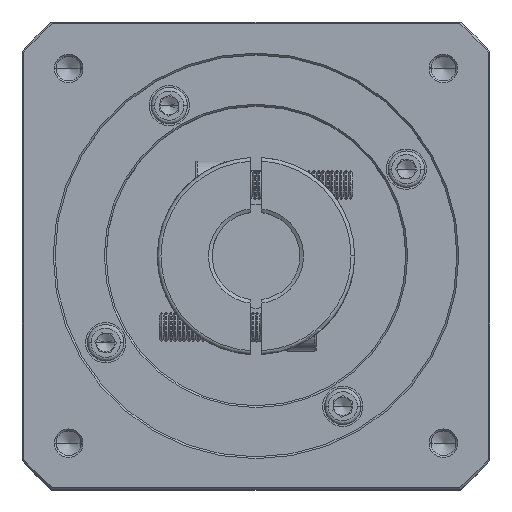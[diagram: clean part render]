
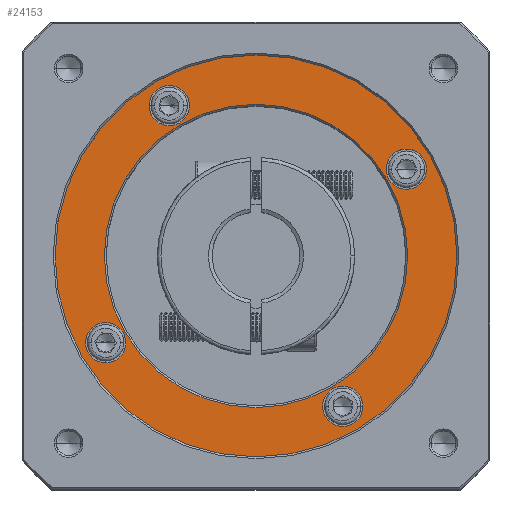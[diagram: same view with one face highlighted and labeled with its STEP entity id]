
A CAD part, top view. The second image highlights one B-rep face of the part: STEP entity #24153.
In plain terms, the highlighted planar face has unit normal (0, 0, 1).
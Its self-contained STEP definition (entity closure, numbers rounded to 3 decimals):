
#822 = ORIENTED_EDGE ( 'NONE', *, *, #65460, .T. ) ;
#3002 = EDGE_CURVE ( 'NONE', #28385, #70171, #85624, .T. ) ;
#4208 = DIRECTION ( 'NONE',  ( 1., 0., 0. ) ) ;
#4311 = EDGE_CURVE ( 'NONE', #82625, #80007, #32448, .T. ) ;
#5439 = CARTESIAN_POINT ( 'NONE',  ( 59.896, 114.42, -0.976 ) ) ;
#5746 = ORIENTED_EDGE ( 'NONE', *, *, #116262, .T. ) ;
#8173 = FACE_BOUND ( 'NONE', #57321, .T. ) ;
#9450 = CARTESIAN_POINT ( 'NONE',  ( 101.032, 138.17, -0.976 ) ) ;
#9608 = CARTESIAN_POINT ( 'NONE',  ( 59.896, 155.92, -0.976 ) ) ;
#10349 = AXIS2_PLACEMENT_3D ( 'NONE', #5439, #71086, #14894 ) ;
#10644 = CARTESIAN_POINT ( 'NONE',  ( 83.646, 73.284, -0.976 ) ) ;
#10828 = DIRECTION ( 'NONE',  ( 0., -1., 0. ) ) ;
#11088 = AXIS2_PLACEMENT_3D ( 'NONE', #35506, #100992, #44885 ) ;
#11420 = AXIS2_PLACEMENT_3D ( 'NONE', #10644, #76251, #20071 ) ;
#12467 = CIRCLE ( 'NONE', #28284, 5.5 ) ;
#12730 = CIRCLE ( 'NONE', #57927, 5.5 ) ;
#13832 = CIRCLE ( 'NONE', #46542, 5.5 ) ;
#14751 = EDGE_LOOP ( 'NONE', ( #92831, #42625 ) ) ;
#14894 = DIRECTION ( 'NONE',  ( 1., 0., 0. ) ) ;
#15640 = CARTESIAN_POINT ( 'NONE',  ( 18.76, 90.67, -0.976 ) ) ;
#16621 = ORIENTED_EDGE ( 'NONE', *, *, #4311, .T. ) ;
#17388 = EDGE_CURVE ( 'NONE', #80007, #82625, #17389, .T. ) ;
#17389 = CIRCLE ( 'NONE', #25098, 41.5 ) ;
#17860 = CARTESIAN_POINT ( 'NONE',  ( 101.032, 138.17, -0.976 ) ) ;
#18654 = CARTESIAN_POINT ( 'NONE',  ( 13.26, 90.67, -0.976 ) ) ;
#18864 = DIRECTION ( 'NONE',  ( 1., 0., 0. ) ) ;
#20071 = DIRECTION ( 'NONE',  ( 1., 0., 0. ) ) ;
#20949 = CARTESIAN_POINT ( 'NONE',  ( 106.532, 138.17, -0.976 ) ) ;
#22058 = EDGE_LOOP ( 'NONE', ( #74194, #16621 ) ) ;
#23591 = VERTEX_POINT ( 'NONE', #70541 ) ;
#23707 = CIRCLE ( 'NONE', #11420, 5.5 ) ;
#24153 = ADVANCED_FACE ( 'NONE', ( #58051, #80043, #107800, #8173, #55112, #30193 ), #109953, .T. ) ;
#24416 = ORIENTED_EDGE ( 'NONE', *, *, #31353, .T. ) ;
#25078 = DIRECTION ( 'NONE',  ( 1., 0., 0. ) ) ;
#25098 = AXIS2_PLACEMENT_3D ( 'NONE', #31455, #96938, #40808 ) ;
#25988 = CARTESIAN_POINT ( 'NONE',  ( 41.646, 155.556, -0.976 ) ) ;
#27291 = DIRECTION ( 'NONE',  ( 1., 0., 0. ) ) ;
#27557 = AXIS2_PLACEMENT_3D ( 'NONE', #9450, #75046, #18864 ) ;
#28284 = AXIS2_PLACEMENT_3D ( 'NONE', #17860, #83443, #27291 ) ;
#28385 = VERTEX_POINT ( 'NONE', #57865 ) ;
#30172 = DIRECTION ( 'NONE',  ( 0., 0., -1. ) ) ;
#30193 = FACE_BOUND ( 'NONE', #55790, .T. ) ;
#30266 = VERTEX_POINT ( 'NONE', #106091 ) ;
#31353 = EDGE_CURVE ( 'NONE', #30266, #78647, #13832, .T. ) ;
#31455 = CARTESIAN_POINT ( 'NONE',  ( 59.896, 114.42, -0.976 ) ) ;
#32213 = VERTEX_POINT ( 'NONE', #20949 ) ;
#32448 = CIRCLE ( 'NONE', #55326, 41.5 ) ;
#33485 = CARTESIAN_POINT ( 'NONE',  ( 36.146, 155.556, -0.976 ) ) ;
#35506 = CARTESIAN_POINT ( 'NONE',  ( 59.896, 114.42, -0.976 ) ) ;
#39923 = ORIENTED_EDGE ( 'NONE', *, *, #3002, .T. ) ;
#40808 = DIRECTION ( 'NONE',  ( 0., -1., 0. ) ) ;
#42625 = ORIENTED_EDGE ( 'NONE', *, *, #117884, .T. ) ;
#42841 = DIRECTION ( 'NONE',  ( 1., 0., 0. ) ) ;
#43002 = DIRECTION ( 'NONE',  ( 0., 0., 1. ) ) ;
#43731 = AXIS2_PLACEMENT_3D ( 'NONE', #55872, #121268, #65315 ) ;
#44185 = VERTEX_POINT ( 'NONE', #78980 ) ;
#44598 = CIRCLE ( 'NONE', #43731, 5.5 ) ;
#44885 = DIRECTION ( 'NONE',  ( 1., 0., 0. ) ) ;
#46542 = AXIS2_PLACEMENT_3D ( 'NONE', #86245, #30172, #95689 ) ;
#54414 = EDGE_LOOP ( 'NONE', ( #90372, #95054 ) ) ;
#55112 = FACE_BOUND ( 'NONE', #54414, .T. ) ;
#55326 = AXIS2_PLACEMENT_3D ( 'NONE', #65919, #67000, #10828 ) ;
#55459 = VERTEX_POINT ( 'NONE', #71550 ) ;
#55790 = EDGE_LOOP ( 'NONE', ( #39923, #822 ) ) ;
#55872 = CARTESIAN_POINT ( 'NONE',  ( 18.76, 90.67, -0.976 ) ) ;
#56199 = CIRCLE ( 'NONE', #10349, 55. ) ;
#57321 = EDGE_LOOP ( 'NONE', ( #5746, #24416 ) ) ;
#57403 = CIRCLE ( 'NONE', #102647, 5.5 ) ;
#57865 = CARTESIAN_POINT ( 'NONE',  ( 24.26, 90.67, -0.976 ) ) ;
#57927 = AXIS2_PLACEMENT_3D ( 'NONE', #33485, #98965, #42841 ) ;
#58051 = FACE_OUTER_BOUND ( 'NONE', #83684, .T. ) ;
#60373 = DIRECTION ( 'NONE',  ( 0., 0., -1. ) ) ;
#60440 = CIRCLE ( 'NONE', #27557, 5.5 ) ;
#65315 = DIRECTION ( 'NONE',  ( 1., 0., 0. ) ) ;
#65439 = AXIS2_PLACEMENT_3D ( 'NONE', #99136, #43002, #108488 ) ;
#65460 = EDGE_CURVE ( 'NONE', #70171, #28385, #44598, .T. ) ;
#65919 = CARTESIAN_POINT ( 'NONE',  ( 59.896, 114.42, -0.976 ) ) ;
#67000 = DIRECTION ( 'NONE',  ( 0., 0., -1. ) ) ;
#70171 = VERTEX_POINT ( 'NONE', #18654 ) ;
#70541 = CARTESIAN_POINT ( 'NONE',  ( 4.896, 114.42, -0.976 ) ) ;
#71086 = DIRECTION ( 'NONE',  ( 0., 0., 1. ) ) ;
#71550 = CARTESIAN_POINT ( 'NONE',  ( 114.896, 114.42, -0.976 ) ) ;
#74194 = ORIENTED_EDGE ( 'NONE', *, *, #17388, .T. ) ;
#75046 = DIRECTION ( 'NONE',  ( 0., 0., -1. ) ) ;
#76060 = CARTESIAN_POINT ( 'NONE',  ( 78.146, 73.284, -0.976 ) ) ;
#76251 = DIRECTION ( 'NONE',  ( 0., 0., -1. ) ) ;
#78647 = VERTEX_POINT ( 'NONE', #25988 ) ;
#78980 = CARTESIAN_POINT ( 'NONE',  ( 89.146, 73.284, -0.976 ) ) ;
#80007 = VERTEX_POINT ( 'NONE', #106760 ) ;
#80043 = FACE_BOUND ( 'NONE', #22058, .T. ) ;
#81222 = DIRECTION ( 'NONE',  ( 0., 0., -1. ) ) ;
#82625 = VERTEX_POINT ( 'NONE', #9608 ) ;
#83443 = DIRECTION ( 'NONE',  ( 0., 0., -1. ) ) ;
#83684 = EDGE_LOOP ( 'NONE', ( #110512, #92198 ) ) ;
#85146 = EDGE_CURVE ( 'NONE', #88976, #44185, #23707, .T. ) ;
#85624 = CIRCLE ( 'NONE', #105331, 5.5 ) ;
#86245 = CARTESIAN_POINT ( 'NONE',  ( 36.146, 155.556, -0.976 ) ) ;
#88976 = VERTEX_POINT ( 'NONE', #76060 ) ;
#90372 = ORIENTED_EDGE ( 'NONE', *, *, #101260, .T. ) ;
#92198 = ORIENTED_EDGE ( 'NONE', *, *, #118243, .T. ) ;
#92831 = ORIENTED_EDGE ( 'NONE', *, *, #96788, .T. ) ;
#95054 = ORIENTED_EDGE ( 'NONE', *, *, #85146, .T. ) ;
#95689 = DIRECTION ( 'NONE',  ( 1., 0., 0. ) ) ;
#96788 = EDGE_CURVE ( 'NONE', #32213, #113459, #60440, .T. ) ;
#96938 = DIRECTION ( 'NONE',  ( 0., 0., -1. ) ) ;
#98017 = EDGE_CURVE ( 'NONE', #55459, #23591, #103892, .T. ) ;
#98965 = DIRECTION ( 'NONE',  ( 0., 0., -1. ) ) ;
#99136 = CARTESIAN_POINT ( 'NONE',  ( 59.896, 114.42, -0.976 ) ) ;
#100992 = DIRECTION ( 'NONE',  ( 0., 0., 1. ) ) ;
#101260 = EDGE_CURVE ( 'NONE', #44185, #88976, #57403, .T. ) ;
#102647 = AXIS2_PLACEMENT_3D ( 'NONE', #116402, #60373, #4208 ) ;
#103892 = CIRCLE ( 'NONE', #65439, 55. ) ;
#105331 = AXIS2_PLACEMENT_3D ( 'NONE', #15640, #81222, #25078 ) ;
#105865 = CARTESIAN_POINT ( 'NONE',  ( 95.532, 138.17, -0.976 ) ) ;
#106091 = CARTESIAN_POINT ( 'NONE',  ( 30.646, 155.556, -0.976 ) ) ;
#106760 = CARTESIAN_POINT ( 'NONE',  ( 59.896, 72.92, -0.976 ) ) ;
#107800 = FACE_BOUND ( 'NONE', #14751, .T. ) ;
#108488 = DIRECTION ( 'NONE',  ( 1., 0., 0. ) ) ;
#109953 = PLANE ( 'NONE',  #11088 ) ;
#110512 = ORIENTED_EDGE ( 'NONE', *, *, #98017, .T. ) ;
#113459 = VERTEX_POINT ( 'NONE', #105865 ) ;
#116262 = EDGE_CURVE ( 'NONE', #78647, #30266, #12730, .T. ) ;
#116402 = CARTESIAN_POINT ( 'NONE',  ( 83.646, 73.284, -0.976 ) ) ;
#117884 = EDGE_CURVE ( 'NONE', #113459, #32213, #12467, .T. ) ;
#118243 = EDGE_CURVE ( 'NONE', #23591, #55459, #56199, .T. ) ;
#121268 = DIRECTION ( 'NONE',  ( 0., 0., -1. ) ) ;
